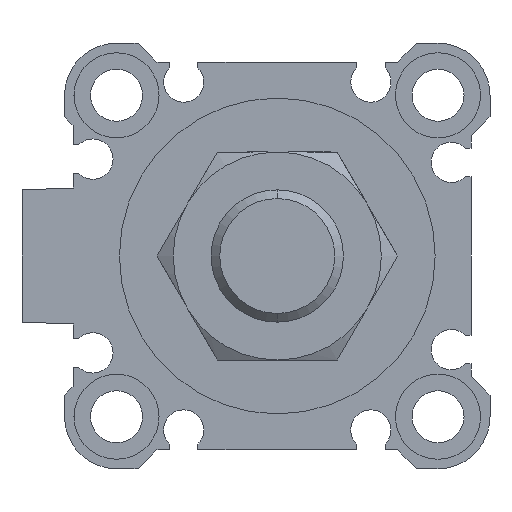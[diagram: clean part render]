
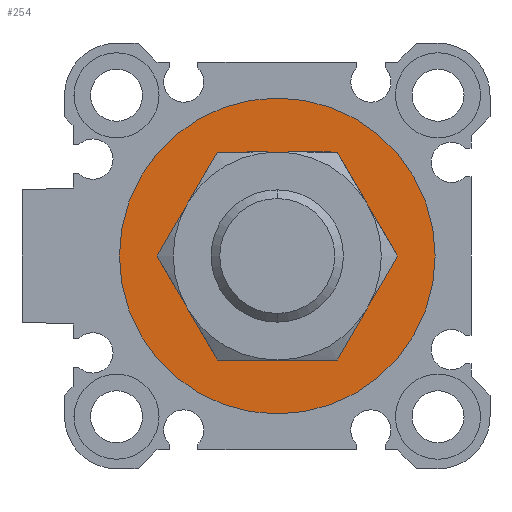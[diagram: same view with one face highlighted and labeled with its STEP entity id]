
A CAD part, left-side view. The second image highlights one B-rep face of the part: STEP entity #254.
In plain terms, the highlighted planar face has unit normal (-1, 0, 0).
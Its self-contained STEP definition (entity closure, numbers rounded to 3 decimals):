
#18 = FACE_BOUND ( 'NONE', #804, .T. ) ;
#66 = VERTEX_POINT ( 'NONE', #2974 ) ;
#254 = ADVANCED_FACE ( 'NONE', ( #3737, #18 ), #5838, .F. ) ;
#804 = EDGE_LOOP ( 'NONE', ( #2872, #2796 ) ) ;
#1053 = DIRECTION ( 'NONE',  ( 0., 1., 0. ) ) ;
#1164 = DIRECTION ( 'NONE',  ( 0., 0., -1. ) ) ;
#1279 = CARTESIAN_POINT ( 'NONE',  ( 2.1, 0., -10.5 ) ) ;
#1414 = ORIENTED_EDGE ( 'NONE', *, *, #6021, .F. ) ;
#1530 = AXIS2_PLACEMENT_3D ( 'NONE', #3815, #5987, #5440 ) ;
#1680 = EDGE_CURVE ( 'NONE', #2296, #66, #5842, .T. ) ;
#1870 = AXIS2_PLACEMENT_3D ( 'NONE', #3858, #4953, #1164 ) ;
#2176 = DIRECTION ( 'NONE',  ( 1., 0., 0. ) ) ;
#2263 = VERTEX_POINT ( 'NONE', #1279 ) ;
#2296 = VERTEX_POINT ( 'NONE', #2869 ) ;
#2318 = CIRCLE ( 'NONE', #1530, 16.7 ) ;
#2513 = DIRECTION ( 'NONE',  ( 0., 0., -1. ) ) ;
#2795 = DIRECTION ( 'NONE',  ( 1., 0., 0. ) ) ;
#2796 = ORIENTED_EDGE ( 'NONE', *, *, #5362, .T. ) ;
#2826 = DIRECTION ( 'NONE',  ( 0., 0., -1. ) ) ;
#2869 = CARTESIAN_POINT ( 'NONE',  ( 2.1, 0., 16.7 ) ) ;
#2872 = ORIENTED_EDGE ( 'NONE', *, *, #4248, .T. ) ;
#2873 = AXIS2_PLACEMENT_3D ( 'NONE', #2930, #2795, #2826 ) ;
#2930 = CARTESIAN_POINT ( 'NONE',  ( 2.1, 0., 0. ) ) ;
#2940 = AXIS2_PLACEMENT_3D ( 'NONE', #3101, #2176, #1053 ) ;
#2974 = CARTESIAN_POINT ( 'NONE',  ( 2.1, 0., -16.7 ) ) ;
#3071 = ORIENTED_EDGE ( 'NONE', *, *, #1680, .F. ) ;
#3101 = CARTESIAN_POINT ( 'NONE',  ( 2.1, 0., 0. ) ) ;
#3737 = FACE_OUTER_BOUND ( 'NONE', #4591, .T. ) ;
#3815 = CARTESIAN_POINT ( 'NONE',  ( 2.1, 0., 0. ) ) ;
#3845 = CARTESIAN_POINT ( 'NONE',  ( 2.1, 0., 10.5 ) ) ;
#3858 = CARTESIAN_POINT ( 'NONE',  ( 2.1, 0., 0. ) ) ;
#4173 = CARTESIAN_POINT ( 'NONE',  ( 2.1, 0., 0. ) ) ;
#4248 = EDGE_CURVE ( 'NONE', #4981, #2263, #4259, .T. ) ;
#4259 = CIRCLE ( 'NONE', #6751, 10.5 ) ;
#4591 = EDGE_LOOP ( 'NONE', ( #3071, #1414 ) ) ;
#4598 = DIRECTION ( 'NONE',  ( 1., 0., 0. ) ) ;
#4953 = DIRECTION ( 'NONE',  ( 1., 0., 0. ) ) ;
#4981 = VERTEX_POINT ( 'NONE', #3845 ) ;
#5362 = EDGE_CURVE ( 'NONE', #2263, #4981, #5942, .T. ) ;
#5440 = DIRECTION ( 'NONE',  ( 0., 0., -1. ) ) ;
#5838 = PLANE ( 'NONE',  #2940 ) ;
#5842 = CIRCLE ( 'NONE', #1870, 16.7 ) ;
#5942 = CIRCLE ( 'NONE', #2873, 10.5 ) ;
#5987 = DIRECTION ( 'NONE',  ( 1., 0., 0. ) ) ;
#6021 = EDGE_CURVE ( 'NONE', #66, #2296, #2318, .T. ) ;
#6751 = AXIS2_PLACEMENT_3D ( 'NONE', #4173, #4598, #2513 ) ;
